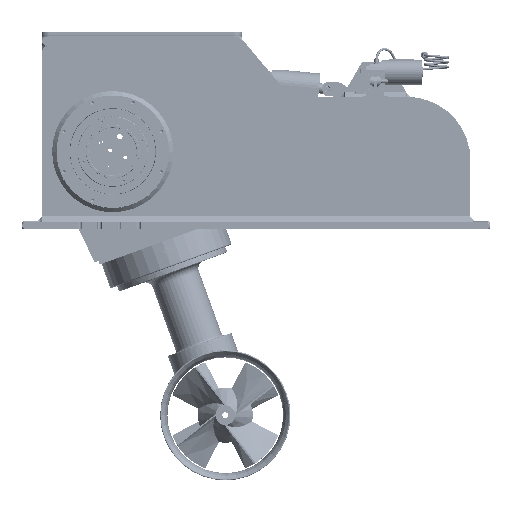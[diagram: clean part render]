
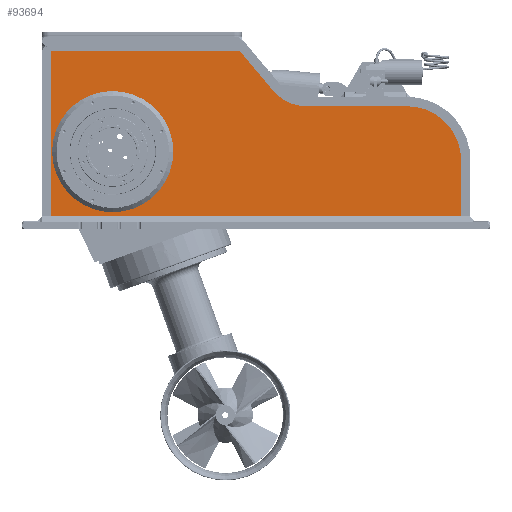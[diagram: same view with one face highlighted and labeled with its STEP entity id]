
A CAD part, left-side view. The second image highlights one B-rep face of the part: STEP entity #93694.
In plain terms, the highlighted planar face has unit normal (-1, 0, 0).
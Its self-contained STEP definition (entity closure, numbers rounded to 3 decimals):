
#3954=FACE_BOUND('',#30060,.T.);
#5205=PLANE('',#99913);
#8507=LINE('',#138904,#16233);
#8508=LINE('',#138906,#16234);
#8509=LINE('',#138910,#16235);
#8510=LINE('',#138914,#16236);
#8511=LINE('',#138916,#16237);
#8512=LINE('',#138917,#16238);
#16233=VECTOR('',#112904,10.);
#16234=VECTOR('',#112905,10.);
#16235=VECTOR('',#112908,10.);
#16236=VECTOR('',#112911,10.);
#16237=VECTOR('',#112912,10.);
#16238=VECTOR('',#112913,10.);
#24965=FACE_OUTER_BOUND('',#30059,.T.);
#30059=EDGE_LOOP('',(#68814,#68815,#68816,#68817,#68818,#68819,#68820,#68821));
#30060=EDGE_LOOP('',(#68822,#68823));
#35862=CIRCLE('',#99914,138.082);
#35863=CIRCLE('',#99915,111.918);
#35864=CIRCLE('',#99916,155.);
#35865=CIRCLE('',#99917,155.);
#41173=VERTEX_POINT('',#138902);
#41174=VERTEX_POINT('',#138903);
#41175=VERTEX_POINT('',#138905);
#41176=VERTEX_POINT('',#138907);
#41177=VERTEX_POINT('',#138909);
#41178=VERTEX_POINT('',#138911);
#41179=VERTEX_POINT('',#138913);
#41180=VERTEX_POINT('',#138915);
#41181=VERTEX_POINT('',#138918);
#41182=VERTEX_POINT('',#138919);
#52474=EDGE_CURVE('',#41173,#41174,#8507,.T.);
#52475=EDGE_CURVE('',#41173,#41175,#8508,.T.);
#52476=EDGE_CURVE('',#41175,#41176,#35862,.T.);
#52477=EDGE_CURVE('',#41176,#41177,#8509,.T.);
#52478=EDGE_CURVE('',#41177,#41178,#35863,.T.);
#52479=EDGE_CURVE('',#41178,#41179,#8510,.T.);
#52480=EDGE_CURVE('',#41179,#41180,#8511,.T.);
#52481=EDGE_CURVE('',#41174,#41180,#8512,.T.);
#52482=EDGE_CURVE('',#41181,#41182,#35864,.T.);
#52483=EDGE_CURVE('',#41182,#41181,#35865,.T.);
#68814=ORIENTED_EDGE('',*,*,#52474,.F.);
#68815=ORIENTED_EDGE('',*,*,#52475,.T.);
#68816=ORIENTED_EDGE('',*,*,#52476,.T.);
#68817=ORIENTED_EDGE('',*,*,#52477,.T.);
#68818=ORIENTED_EDGE('',*,*,#52478,.T.);
#68819=ORIENTED_EDGE('',*,*,#52479,.T.);
#68820=ORIENTED_EDGE('',*,*,#52480,.T.);
#68821=ORIENTED_EDGE('',*,*,#52481,.F.);
#68822=ORIENTED_EDGE('',*,*,#52482,.F.);
#68823=ORIENTED_EDGE('',*,*,#52483,.F.);
#93694=ADVANCED_FACE('',(#24965,#3954),#5205,.F.);
#99913=AXIS2_PLACEMENT_3D('',#138901,#112902,#112903);
#99914=AXIS2_PLACEMENT_3D('',#138908,#112906,#112907);
#99915=AXIS2_PLACEMENT_3D('',#138912,#112909,#112910);
#99916=AXIS2_PLACEMENT_3D('',#138920,#112914,#112915);
#99917=AXIS2_PLACEMENT_3D('',#138921,#112916,#112917);
#112902=DIRECTION('center_axis',(1.,0.,0.));
#112903=DIRECTION('ref_axis',(0.,0.,
-1.));
#112904=DIRECTION('',(0.,1.,0.));
#112905=DIRECTION('',(0.,0.,1.));
#112906=DIRECTION('center_axis',(-1.,0.,0.));
#112907=DIRECTION('ref_axis',(0.,-0.707,
0.707));
#112908=DIRECTION('',(0.,1.,0.));
#112909=DIRECTION('center_axis',(1.,0.,0.));
#112910=DIRECTION('ref_axis',(0.,0.423,-0.906));
#112911=DIRECTION('',(0.,0.643,0.766));
#112912=DIRECTION('',(0.,1.,0.));
#112913=DIRECTION('',(0.,0.,1.));
#112914=DIRECTION('center_axis',(-1.,0.,0.));
#112915=DIRECTION('ref_axis',(0.,0.,
-1.));
#112916=DIRECTION('center_axis',(-1.,0.,0.));
#112917=DIRECTION('ref_axis',(0.,0.,
-1.));
#138901=CARTESIAN_POINT('Origin',(-242.,-366.5,236.));
#138902=CARTESIAN_POINT('',(-242.,-891.082,31.203));
#138903=CARTESIAN_POINT('',(-242.,158.082,31.203));
#138904=CARTESIAN_POINT('',(-242.,-643.035,31.203));
#138905=CARTESIAN_POINT('',(-242.,-891.082,175.));
#138906=CARTESIAN_POINT('',(-242.,-891.082,-295.055));
#138907=CARTESIAN_POINT('',(-242.,-753.,313.082));
#138908=CARTESIAN_POINT('Origin',(-242.,-753.,175.));
#138909=CARTESIAN_POINT('',(-242.,-495.783,313.082));
#138910=CARTESIAN_POINT('',(-242.,-191.852,313.082));
#138911=CARTESIAN_POINT('',(-242.,-410.049,353.061));
#138912=CARTESIAN_POINT('Origin',(-242.,-495.783,425.));
#138913=CARTESIAN_POINT('',(-242.,-324.443,455.082));
#138914=CARTESIAN_POINT('',(-242.,-526.168,214.676));
#138915=CARTESIAN_POINT('',(-242.,158.082,455.082));
#138916=CARTESIAN_POINT('',(-242.,-86.125,455.082));
#138917=CARTESIAN_POINT('',(-242.,158.082,120.5));
#138918=CARTESIAN_POINT('',(-242.,0.,352.));
#138919=CARTESIAN_POINT('',(-242.,0.,42.));
#138920=CARTESIAN_POINT('Origin',(-242.,0.,
197.));
#138921=CARTESIAN_POINT('Origin',(-242.,0.,
197.));
